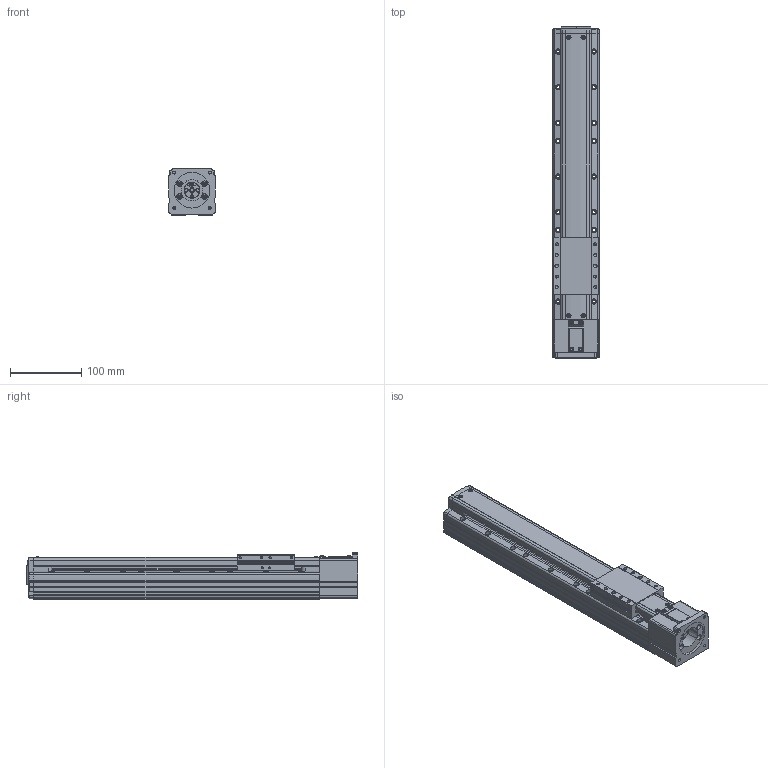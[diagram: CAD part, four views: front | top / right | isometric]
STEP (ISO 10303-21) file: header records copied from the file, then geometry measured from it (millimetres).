
FILE_DESCRIPTION(('STEP AP214'),'1');
FILE_NAME('Z:/Web/3D/PSA65/STP/PSA65-250 (3D)/PSA65ㅁㅁ-250S.stp','2014-06-25T03:36:24',(' '),(' '),'Spatial InterOp 3D',' ',' ');
FILE_SCHEMA(('automotive_design'));
Length unit declared in the file: millimetre
Products named in the file (80): SLIDE; RRCV-PA060; 1; 2; 3; 4; 5; 6; 7; 8; 9; 10; 11; 12; 13; 14; 15; 16; 17; 18; 19; 20; 21; 22; 23; 24; 25; 26; 27; 28; 29; 30; 31; 스크루 : Round - M3.0 x 8.0; RN8 x 0.75; SHAFT-SAN65; BASE; 스크루 : Round - M3.0 x 6.0; MTHZ - PSA65-60A; CPLCV-SAN45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
Bounding box: 65 x 464.8 x 65 mm (x, y, z)
Volume: 1436234.8 mm3; surface area: 225280.7 mm2
Topology: 80 solids, 80 shells, 2372 faces, 6277 edges, 4019 vertices
Faces by surface type: plane 1218, cylinder 764, cone 317, sphere 30, bspline 23, torus 20
Entity records: 95466 total; most frequent: CARTESIAN_POINT 15352, DIRECTION 12889, ORIENTED_EDGE 12310, EDGE_CURVE 6155, AXIS2_PLACEMENT_3D 4494, VERTEX_POINT 4019, LINE 3901, VECTOR 3901
